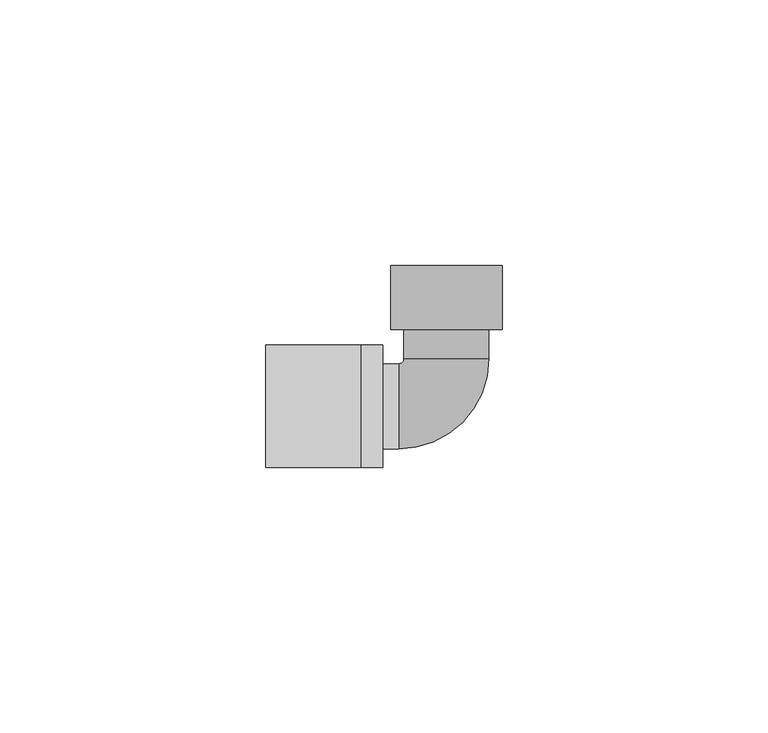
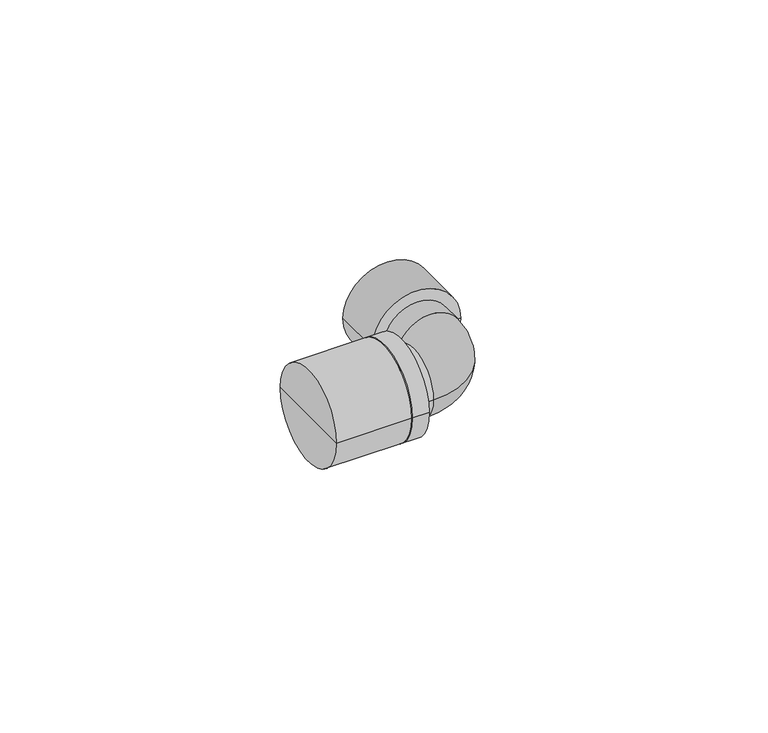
"""IFC4 building model written with IfcOpenShell, lengths in millimetres: pipe fitting geometry, KAN-therm Push kolano gz 1-2 : KAN-therm Push kolano gz 1-2."""

from ifc_helpers import new_model, si_unit, point, frame, origin, place, context, project, spatial, circle_curve, ellipse_curve, trimmed, source, transform, mapped, element, save
from ifc_brep_helpers import plane_surface, cylinder_surface, revolved_surface, advanced_brep


def pipe_fitting_cc8620ed(model_context):
    return source(origin(), model_context, "Body", "AdvancedBrep", [
        advanced_brep(
        [(-16.0, 11.5, 0.0), (-16.0, -11.5, 0.0), (-16.0, 0.0, 0.0), (-12.0, 11.5, 0.0), (-12.0, -11.5, 0.0), (-12.0, 0.0, 0.0)],
        [
            (0, 1, circle_curve(frame((-16.0, 0.0, 0.0), z_axis=(-1.0, 0.0, 0.0), x_axis=(0.0, -1.0, 0.0)), 11.5)),
            (1, 2),
            (2, 0),
            (1, 0, circle_curve(frame((-16.0, 0.0, 0.0), z_axis=(-1.0, 0.0, 0.0), x_axis=(0.0, -1.0, 0.0)), 11.5)),
            (3, 4, circle_curve(frame((-12.0, 0.0, 0.0), z_axis=(-1.0, 0.0, 0.0), x_axis=(0.0, -1.0, 0.0)), 11.5)),
            (4, 1),
            (0, 3),
            (4, 3, circle_curve(frame((-12.0, 0.0, 0.0), z_axis=(-1.0, 0.0, 0.0), x_axis=(0.0, -1.0, 0.0)), 11.5)),
            (5, 4),
            (3, 5),
        ],
        [
            plane_surface(frame((-16.0, 0.0, 0.0), z_axis=(-1.0, 0.0, 0.0), x_axis=(0.0, -1.0, 0.0))),
            cylinder_surface(frame((-2011.0, 0.0, 0.0), z_axis=(1.0, 0.0, 0.0), x_axis=(0.0, -1.0, 0.0)), 11.5),
            plane_surface(frame((-12.0, 0.0, 0.0), z_axis=(1.0, 0.0, 0.0), x_axis=(0.0, -1.0, 0.0))),
        ],
        [
            (0, [[1, 2, 3]]),
            (0, [[4, -3, -2]]),
            (1, [[5, 6, -1, 7]]),
            (1, [[8, -7, -4, -6]]),
            (2, [[9, -5, 10]]),
            (2, [[-10, -8, -9]]),
        ],
    ),
        advanced_brep(
        [(-34.0, 11.5, 0.0), (-34.0, -11.5, 0.0), (-34.0, 0.0, 0.0), (-16.0, 11.5, 0.0), (-16.0, -11.5, 0.0), (-16.0, 0.0, 0.0)],
        [
            (0, 1, circle_curve(frame((-34.0, 0.0, 0.0), z_axis=(-1.0, 0.0, 0.0), x_axis=(0.0, -1.0, 0.0)), 11.5)),
            (1, 2),
            (2, 0),
            (1, 0, circle_curve(frame((-34.0, 0.0, 0.0), z_axis=(-1.0, 0.0, 0.0), x_axis=(0.0, -1.0, 0.0)), 11.5)),
            (3, 4, circle_curve(frame((-16.0, 0.0, 0.0), z_axis=(-1.0, 0.0, 0.0), x_axis=(0.0, -1.0, 0.0)), 11.5)),
            (4, 1),
            (0, 3),
            (4, 3, circle_curve(frame((-16.0, 0.0, 0.0), z_axis=(-1.0, 0.0, 0.0), x_axis=(0.0, -1.0, 0.0)), 11.5)),
            (5, 4),
            (3, 5),
        ],
        [
            plane_surface(frame((-34.0, 0.0, 0.0), z_axis=(-1.0, 0.0, 0.0), x_axis=(0.0, -1.0, 0.0))),
            cylinder_surface(frame((-2011.0, 0.0, 0.0), z_axis=(1.0, 0.0, 0.0), x_axis=(0.0, -1.0, 0.0)), 11.5),
            plane_surface(frame((-16.0, 0.0, 0.0), z_axis=(1.0, 0.0, 0.0), x_axis=(0.0, -1.0, 0.0))),
        ],
        [
            (0, [[1, 2, 3]]),
            (0, [[4, -3, -2]]),
            (1, [[5, 6, -1, 7]]),
            (1, [[8, -7, -4, -6]]),
            (2, [[9, -5, 10]]),
            (2, [[-10, -8, -9]]),
        ],
    ),
        advanced_brep(
        [(0.0, 26.5, 0.0), (10.5, 26.5, 0.0), (-10.5, 26.5, 0.0), (-10.5, 14.5, 0.0), (10.5, 14.5, 0.0), (0.0, 14.5, 0.0)],
        [
            (0, 1),
            (1, 2, circle_curve(frame((0.0, 26.5, 0.0), z_axis=(0.0, 1.0, 0.0), x_axis=(1.0, 0.0, 0.0)), 10.5)),
            (2, 0),
            (2, 1, circle_curve(frame((0.0, 26.5, 0.0), z_axis=(0.0, 1.0, 0.0), x_axis=(1.0, 0.0, 0.0)), 10.5)),
            (3, 4, circle_curve(frame((0.0, 14.5, 0.0), z_axis=(0.0, -1.0, 0.0), x_axis=(1.0, 0.0, 0.0)), 10.5)),
            (4, 5),
            (5, 3),
            (4, 3, circle_curve(frame((0.0, 14.5, 0.0), z_axis=(0.0, -1.0, 0.0), x_axis=(1.0, 0.0, 0.0)), 10.5)),
            (1, 4),
            (3, 2),
        ],
        [
            plane_surface(frame((0.0, 26.5, 0.0), z_axis=(0.0, 1.0, 0.0), x_axis=(1.0, 0.0, 0.0))),
            plane_surface(frame((0.0, 14.5, 0.0), z_axis=(0.0, -1.0, 0.0), x_axis=(1.0, 0.0, 0.0))),
            cylinder_surface(frame((0.0, 1997.5, 0.0), z_axis=(0.0, 1.0, 0.0), x_axis=(1.0, 0.0, 0.0)), 10.5),
        ],
        [
            (0, [[1, 2, 3]]),
            (0, [[-3, 4, -1]]),
            (1, [[5, 6, 7]]),
            (1, [[8, -7, -6]]),
            (2, [[-2, 9, -5, 10]]),
            (2, [[-4, -10, -8, -9]]),
        ],
    ),
        advanced_brep(
        [(-8.0, 14.5, 0.0), (8.0, 14.5, 0.0), (-16.0, 8.0, 0.0), (-16.0, -8.0, 0.0), (-9.0, -8.0, 0.0), (-9.0, 8.0, 0.0), (-8.0, 9.0, 0.0), (8.0, 9.0, 0.0)],
        [
            (0, 1, circle_curve(frame((0.0, 14.5, 0.0), z_axis=(0.0, 1.0, 0.0), x_axis=(1.0, 0.0, 0.0)), 8.0)),
            (1, 0, circle_curve(frame((0.0, 14.5, 0.0), z_axis=(0.0, 1.0, 0.0), x_axis=(1.0, 0.0, 0.0)), 8.0)),
            (2, 3, circle_curve(frame((-16.0, 0.0, 0.0), z_axis=(-1.0, 0.0, 0.0), x_axis=(0.0, -1.0, 0.0)), 8.0)),
            (3, 2, circle_curve(frame((-16.0, 0.0, 0.0), z_axis=(-1.0, 0.0, 0.0), x_axis=(0.0, -1.0, 0.0)), 8.0)),
            (4, 5, circle_curve(frame((-9.0, 0.0, 0.0), z_axis=(-1.0, 0.0, 0.0), x_axis=(0.0, -1.0, 0.0)), 8.0)),
            (5, 2),
            (3, 4),
            (5, 4, circle_curve(frame((-9.0, 0.0, 0.0), z_axis=(-1.0, 0.0, 0.0), x_axis=(0.0, -1.0, 0.0)), 8.0)),
            (0, 6),
            (6, 7, circle_curve(frame((0.0, 9.0, 0.0), z_axis=(0.0, 1.0, 0.0), x_axis=(1.0, 0.0, 0.0)), 8.0)),
            (7, 1),
            (7, 6, circle_curve(frame((0.0, 9.0, 0.0), z_axis=(0.0, 1.0, 0.0), x_axis=(1.0, 0.0, 0.0)), 8.0)),
            (4, 7, circle_curve(frame((-9.0, 9.0, 0.0), z_axis=(0.0, 0.0, 1.0), x_axis=(1.0, 0.0, 0.0)), 17.0)),
            (6, 5, circle_curve(frame((-9.0, 9.0, 0.0), z_axis=(0.0, 0.0, -1.0), x_axis=(1.0, 0.0, 0.0)), 1.0)),
        ],
        [
            plane_surface(frame((0.0, 14.5, 0.0), z_axis=(0.0, 1.0, 0.0), x_axis=(0.0, 0.0, 1.0))),
            plane_surface(frame((-16.0, 0.0, 0.0), z_axis=(-1.0, 0.0, 0.0), x_axis=(0.0, 0.0, 1.0))),
            cylinder_surface(frame((-9.0, 0.0, 0.0), z_axis=(1.0, 0.0, 0.0), x_axis=(0.0, -1.0, 0.0)), 8.0),
            cylinder_surface(frame((0.0, 14.5, 0.0), z_axis=(0.0, 1.0, 0.0), x_axis=(1.0, 0.0, 0.0)), 8.0),
            revolved_surface(trimmed(ellipse_curve(frame((0.0, 9.0, 0.0), z_axis=(0.0, 1.0, 0.0), x_axis=(1.0, 0.0, 0.0)), 8.0, 8.0), [point((-8.0, 9.0, 0.0))], [point((8.0, 9.0, 0.0))], True, "CARTESIAN"), (-9.0, 9.0, 0.0), (0.0, 0.0, -1.0)),
            revolved_surface(trimmed(ellipse_curve(frame((0.0, 9.0, 0.0), z_axis=(0.0, 1.0, 0.0), x_axis=(1.0, 0.0, 0.0)), 8.0, 8.0), [point((8.0, 9.0, 0.0))], [point((-8.0, 9.0, 0.0))], True, "CARTESIAN"), (-9.0, 9.0, 0.0), (0.0, 0.0, -1.0)),
        ],
        [
            (0, [[1, 2]]),
            (1, [[3, 4]]),
            (2, [[5, 6, -4, 7]]),
            (2, [[8, -7, -3, -6]]),
            (3, [[-1, 9, 10, 11]]),
            (3, [[-2, -11, 12, -9]]),
            (4, [[13, -10, 14, -5]]),
            (5, [[-14, -12, -13, -8]]),
        ],
    ),
    ])


if __name__ == "__main__":
    model = new_model("IFC4")
    model_context = context("Model", 3, world=origin())
    ifc_project = project(units=[si_unit("LENGTHUNIT", "METRE", prefix="MILLI")], contexts=[model_context])
    site = spatial("IfcSite", under=ifc_project)
    building = spatial("IfcBuilding", under=site)
    placement = place(None, origin())
    pipe_fitting_shape = pipe_fitting_cc8620ed(model_context)
    element("IfcPipeFitting", 1, ObjectType="KAN-therm Push kolano gz 1-2 : KAN-therm Push kolano gz 1-2", at=placement, inside=building, context=model_context, shape_type="MappedRepresentation", body=[
        mapped(pipe_fitting_shape, transform((0.0, 0.0, 0.0), x_axis=(1.0, 0.0, 0.0), y_axis=(0.0, 1.0, 0.0), z_axis=(0.0, 0.0, 1.0))),
    ])
    save(model, "model.ifc")
